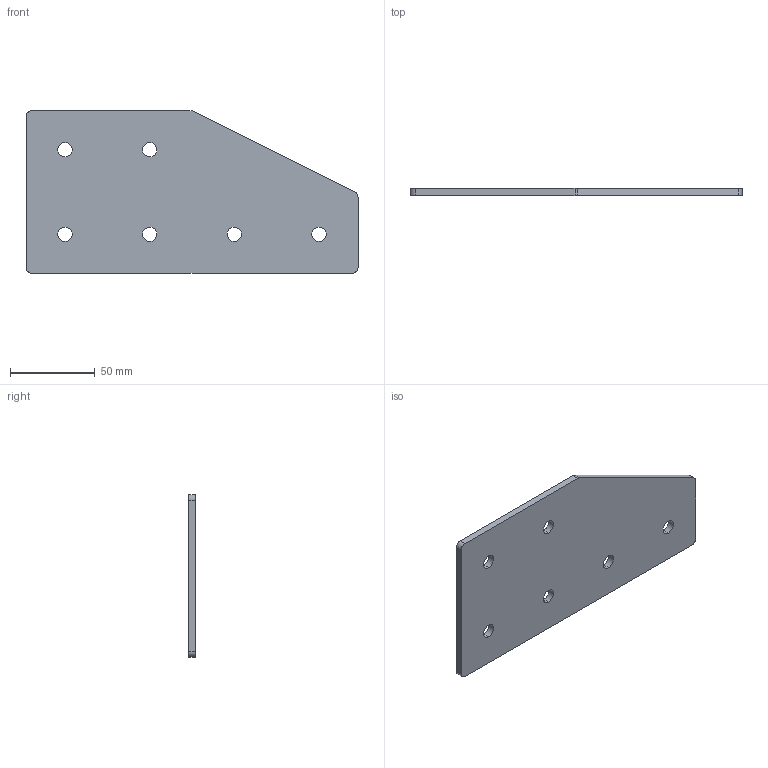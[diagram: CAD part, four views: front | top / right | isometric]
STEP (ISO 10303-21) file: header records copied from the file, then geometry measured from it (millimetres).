
FILE_DESCRIPTION (( 'STEP AP203' ), '1' );
FILE_NAME ('ﾃ-6-ﾓ-50.STEP', '2017-03-22T09:20:59', ( 'RosInstal-MKM' ), ( '' ), 'SwSTEP 2.0', 'SolidWorks 2014', '' );
FILE_SCHEMA (( 'CONFIG_CONTROL_DESIGN' ));
Length unit declared in the file: millimetre
Products named in the file (1): ﾃ-6-ﾓ-50
Bounding box: 196 x 4 x 96 mm (x, y, z)
Volume: 64305.8 mm3; surface area: 34961.2 mm2
Topology: 1 solids, 1 shells, 24 faces, 66 edges, 44 vertices
Faces by surface type: cylinder 17, plane 7
Entity records: 885 total; most frequent: DIRECTION 150, CARTESIAN_POINT 135, ORIENTED_EDGE 132, EDGE_CURVE 66, AXIS2_PLACEMENT_3D 59, VERTEX_POINT 44, EDGE_LOOP 36, CIRCLE 34
